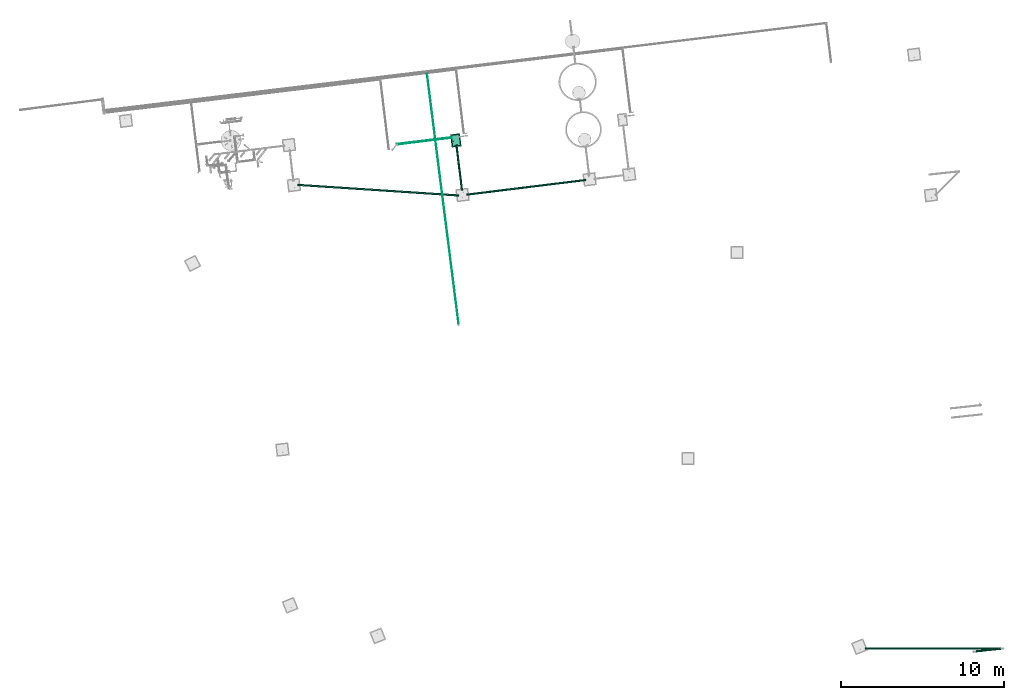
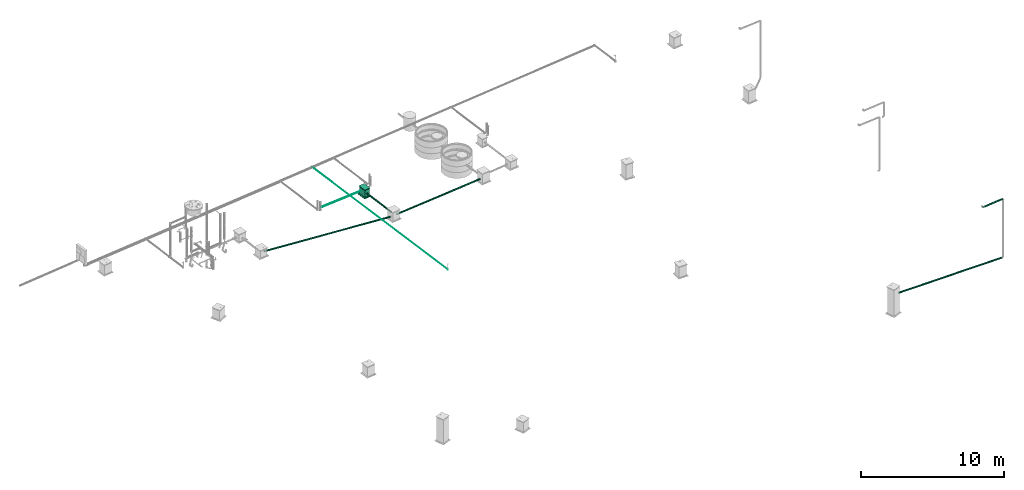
# One storey, part 4 of 97: 7 flow segments, 1 flow terminal.
"""IFC2X3 building model written with IfcOpenShell, lengths in centimetres."""

from ifc_helpers import new_model, entity, si_unit, converted_unit, derived_unit, direction, frame, frame_2d, origin, origin_2d_with_axis, place, context, subcontext, project, spatial, circle, extrude, faceted_brep, source, transform, mapped, material, material_list, type_object, type_shapes, element, save


model = new_model("IFC2X3")

# Units and contexts
model_context = context("Model", 3, precision=0.001, world=origin(), true_north=direction((6.12303176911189e-17, 1.0)))
body_context = subcontext(model_context, "Body", "Model", "MODEL_VIEW")
ifc_project = project(units=[si_unit("LENGTHUNIT", "METRE", prefix="CENTI"), si_unit("AREAUNIT", "SQUARE_METRE"), si_unit("VOLUMEUNIT", "CUBIC_METRE"), converted_unit("PLANEANGLEUNIT", "DEGREE", entity("IfcRatioMeasure", 0.0174532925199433), si_unit("PLANEANGLEUNIT", "RADIAN"), dimensions=[0, 0, 0, 0, 0, 0, 0]), si_unit("MASSUNIT", "GRAM", prefix="KILO"), derived_unit("MASSDENSITYUNIT", [(si_unit("MASSUNIT", "GRAM", prefix="KILO"), 1), (si_unit("LENGTHUNIT", "METRE"), -3)]), derived_unit("MOMENTOFINERTIAUNIT", [(si_unit("LENGTHUNIT", "METRE"), 4)]), si_unit("TIMEUNIT", "SECOND"), si_unit("FREQUENCYUNIT", "HERTZ"), si_unit("THERMODYNAMICTEMPERATUREUNIT", "DEGREE_CELSIUS"), derived_unit("THERMALTRANSMITTANCEUNIT", [(si_unit("MASSUNIT", "GRAM", prefix="KILO"), 1), (si_unit("THERMODYNAMICTEMPERATUREUNIT", "KELVIN"), -1), (si_unit("TIMEUNIT", "SECOND"), -3)]), derived_unit("VOLUMETRICFLOWRATEUNIT", [(si_unit("LENGTHUNIT", "METRE"), 3), (si_unit("TIMEUNIT", "SECOND"), -1)]), si_unit("ELECTRICCURRENTUNIT", "AMPERE"), si_unit("ELECTRICVOLTAGEUNIT", "VOLT"), si_unit("POWERUNIT", "WATT"), si_unit("FORCEUNIT", "NEWTON", prefix="KILO"), si_unit("ILLUMINANCEUNIT", "LUX"), si_unit("LUMINOUSFLUXUNIT", "LUMEN"), si_unit("LUMINOUSINTENSITYUNIT", "CANDELA"), derived_unit("USERDEFINED", [(si_unit("MASSUNIT", "GRAM", prefix="KILO"), -1), (si_unit("LENGTHUNIT", "METRE"), -2), (si_unit("TIMEUNIT", "SECOND"), 3), (si_unit("LUMINOUSFLUXUNIT", "LUMEN"), 1)]), derived_unit("LINEARVELOCITYUNIT", [(si_unit("LENGTHUNIT", "METRE"), 1), (si_unit("TIMEUNIT", "SECOND"), -1)]), si_unit("PRESSUREUNIT", "PASCAL"), derived_unit("USERDEFINED", [(si_unit("LENGTHUNIT", "METRE"), -2), (si_unit("MASSUNIT", "GRAM", prefix="KILO"), 1), (si_unit("TIMEUNIT", "SECOND"), -2)]), derived_unit("LINEARFORCEUNIT", [(si_unit("MASSUNIT", "GRAM", prefix="KILO"), 1), (si_unit("LENGTHUNIT", "METRE"), 1), (si_unit("TIMEUNIT", "SECOND"), -2), (si_unit("LENGTHUNIT", "METRE"), -1)]), derived_unit("PLANARFORCEUNIT", [(si_unit("MASSUNIT", "GRAM", prefix="KILO"), 1), (si_unit("LENGTHUNIT", "METRE"), 1), (si_unit("TIMEUNIT", "SECOND"), -2), (si_unit("LENGTHUNIT", "METRE"), -2)])], contexts=[model_context])

# Site, building, storey
site_placement = place(None, origin())
site = spatial("IfcSite", under=ifc_project, at=site_placement, Name="Default", CompositionType="ELEMENT")
building_placement = place(site_placement, origin())
building = spatial("IfcBuilding", under=site, at=building_placement, Name="HIDROSSANITÁRIO", CompositionType="ELEMENT")
storey_placement = place(building_placement, frame((0.0, 0.0, -260.0)))
storey = spatial("IfcBuildingStorey", under=building, at=storey_placement, Name="TÉRREO-HID", CompositionType="ELEMENT", Elevation=-260.0)

# Flow segments
pipe_segment_type_1 = type_object("IfcPipeSegmentType", Name="Tipos de tubos:Tubo Marrom - Água Fria - Soldável", PredefinedType="NOTDEFINED")
flow_segment_1_placement = place(storey_placement, origin())
element("IfcFlowSegment", 1, at=flow_segment_1_placement, inside=storey, type_object=pipe_segment_type_1, Name="Tipos de tubos:Tubo Marrom - Água Fria - Soldável", ObjectType="Tipos de tubos:Tubo Marrom - Água Fria - Soldável", context=body_context, shape_type="SweptSolid", body=[
    extrude(circle(Radius=1.25, at=origin_2d_with_axis()), frame((-453.020344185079, 3461.64159963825, -20.0), z_axis=(0.125267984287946, -0.992122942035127, 0.0), x_axis=(-0.992122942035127, -0.125267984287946, 0.0)), (0.0, 0.0, 1.0), 1566.73698252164),
])
pipe_segment_type_2 = type_object("IfcPipeSegmentType", Name="Tipos de tubos:Tubo - Esgoto - Série Normal", PredefinedType="NOTDEFINED")
flow_segment_2_placement = place(storey_placement, origin())
element("IfcFlowSegment", 2, at=flow_segment_2_placement, inside=storey, type_object=pipe_segment_type_2, Name="Tipos de tubos:Tubo - Esgoto - Série Normal", ObjectType="Tipos de tubos:Tubo - Esgoto - Série Normal", context=body_context, shape_type="SweptSolid", body=[
    extrude(circle(Radius=5.0, at=origin_2d_with_axis()), frame((-237.169716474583, 2733.44797157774, -35.8), z_axis=(-0.122146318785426, 0.992461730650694, 0.00999950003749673), x_axis=(-0.992511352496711, -0.12215242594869, 0.0)), (0.0, 0.0, 1.0), 280.013999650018),
])
flow_segment_3_placement = place(storey_placement, origin())
element("IfcFlowSegment", 3, at=flow_segment_3_placement, inside=storey, type_object=pipe_segment_type_2, Name="Tipos de tubos:Tubo - Esgoto - Série Normal", ObjectType="Tipos de tubos:Tubo - Esgoto - Série Normal", context=body_context, shape_type="SweptSolid", body=[
    extrude(circle(Radius=2.5, at=origin_2d_with_axis()), frame((-299.779867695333, 3057.04058624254, -32.7018767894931), z_axis=(-0.992312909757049, -0.122128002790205, 0.0199960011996), x_axis=(-0.122152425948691, 0.992511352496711, 0.0)), (0.0, 0.0, 1.0), 339.303052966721),
])
flow_segment_4_placement = place(storey_placement, origin())
element("IfcFlowSegment", 4, at=flow_segment_4_placement, inside=storey, type_object=pipe_segment_type_2, Name="Tipos de tubos:Tubo - Esgoto - Série Normal", ObjectType="Tipos de tubos:Tubo - Esgoto - Série Normal", context=body_context, shape_type="SweptSolid", body=[
    extrude(circle(Radius=5.0, at=origin_2d_with_axis()), frame((-256.018851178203, 2701.47412611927, -49.9209992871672), z_axis=(-0.99779128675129, 0.0656700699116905, 0.00999950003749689), x_axis=(-0.0656733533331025, -0.99784117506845, 0.0)), (0.0, 0.0, 1.0), 992.149532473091),
])
flow_segment_5_placement = place(storey_placement, origin())
element("IfcFlowSegment", 5, at=flow_segment_5_placement, inside=storey, type_object=pipe_segment_type_2, Name="Tipos de tubos:Tubo - Esgoto - Série Normal", ObjectType="Tipos de tubos:Tubo - Esgoto - Série Normal", context=body_context, shape_type="SweptSolid", body=[
    extrude(circle(Radius=5.0, at=frame_2d((3.30687117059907e-15, -2.68676046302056e-16), x_axis=(1.0, 0.0))), frame((-208.079816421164, 2706.70212358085, -50.0), z_axis=(0.992461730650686, 0.122146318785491, -0.00999950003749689), x_axis=(0.122152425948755, -0.992511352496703, 0.0)), (0.0, 0.0, 1.0), 736.036799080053),
])
flow_segment_6_placement = place(storey_placement, origin())
element("IfcFlowSegment", 6, at=flow_segment_6_placement, inside=storey, type_object=pipe_segment_type_2, Name="Tipos de tubos:Tubo - Esgoto - Série Normal", ObjectType="Tipos de tubos:Tubo - Esgoto - Série Normal", context=body_context, shape_type="SweptSolid", body=[
    extrude(circle(Radius=5.0, at=origin_2d_with_axis()), frame((2240.89857686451, -81.3299260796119, 111.538306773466), z_axis=(0.999950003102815, 3.59677573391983e-05, 0.00999950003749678), x_axis=(-3.59695556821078e-05, 1.0, 0.0)), (0.0, 0.0, 1.0), 840.363370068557),
])
flow_segment_7_placement = place(storey_placement, origin())
element("IfcFlowSegment", 7, at=flow_segment_7_placement, inside=storey, type_object=pipe_segment_type_2, Name="Tipos de tubos:Tubo - Esgoto - Série Normal", ObjectType="Tipos de tubos:Tubo - Esgoto - Série Normal", context=body_context, shape_type="SweptSolid", body=[
    extrude(circle(Radius=5.0, at=frame_2d((1.34587581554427e-14, 0.0), x_axis=(1.0, 0.0))), frame((2911.96906233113, -100.051120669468, 620.0), z_axis=(0.994305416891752, 0.106567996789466, 0.0), x_axis=(-0.106567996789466, 0.994305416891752, 0.0)), (0.0, 0.0, 1.0), 170.200045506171),
])

# Flow terminal
ifc_material_1 = material(Name="<Unnamed>")
ifc_material_2 = material(Name="Concrete, Sand/Cement Screed")
ifc_material_3 = material(Name="Brick, Common, Grey")
ifc_material_list_1 = material_list([ifc_material_1, ifc_material_2, ifc_material_3])
ifc_material_list_2 = material_list([ifc_material_1, ifc_material_2, ifc_material_3])
distribution_element_type = type_object("IfcDistributionElementType", Name="Caixa de Inspeção/Gordura:Alvenaria", material=ifc_material_list_2)
shared_shape = source(origin(), body_context, "Body", "Brep", [
    faceted_brep([(-5.60146522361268, 16.5924553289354, 3.71042168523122), (-5.40613785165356, 16.3971279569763, 3.71042168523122), (-5.60146522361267, 16.2018005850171, 3.71042168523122), (-5.79679259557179, 16.3971279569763, 3.71042168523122), (6.39853477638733, 16.2018005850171, 3.71042168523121), (6.20320740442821, 16.3971279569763, 3.71042168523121), (6.39853477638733, 16.5924553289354, 3.71042168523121), (6.59386214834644, 16.3971279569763, 3.71042168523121), (-5.40613785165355, 16.3971279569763, 5.27042602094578), (-5.57070403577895, 16.2042380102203, 5.71042174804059), (-5.79679259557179, 16.3971279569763, 5.27042593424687), (-5.40613785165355, 16.3971279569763, 7.71042168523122), (-5.60146522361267, 16.2018005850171, 7.71042168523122), (-5.40613785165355, 16.3971279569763, 6.1504173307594), (-5.79679259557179, 16.3971279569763, 7.71042168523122), (-5.60146522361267, 16.5924553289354, 7.71042168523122), (-5.63222641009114, 16.5900179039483, 5.71042169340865), (-5.68947233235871, 16.5044482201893, 7.71042168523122), (-5.25102598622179, 16.2195619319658, 8.35998244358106), (-5.37993713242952, 16.2298951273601, 8.48889359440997), (-4.60146522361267, 16.3971279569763, 8.90574905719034), (-4.60146522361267, 16.2018005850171, 8.71042168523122), (-5.17045469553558, 16.3971279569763, 8.27941115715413), (-4.60146522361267, 16.3971279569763, 8.5150943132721), (-5.44668931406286, 16.3971279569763, 8.55564577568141), (-5.36898819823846, 16.5727768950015, 8.47794465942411), (-5.21737432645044, 16.5627205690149, 8.36172681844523), (-4.60146522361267, 16.5924553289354, 8.71042168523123), (0.518543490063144, 16.3971279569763, 8.90574905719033), (1.73854147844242, 16.2018005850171, 8.71042168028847), (2.95853913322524, 16.3971279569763, 8.90574905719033), (-0.76461087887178, 16.2018577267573, 8.71514602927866), (-2.16146960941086, 16.3971279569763, 8.5150943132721), (0.278526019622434, 16.3971279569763, 8.5150943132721), (0.398534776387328, 16.3971279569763, 8.5150943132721), (-2.16146958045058, 16.3971279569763, 8.90574905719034), (5.39853477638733, 16.2018005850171, 8.71042168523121), (5.39853477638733, 16.3971279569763, 8.90574905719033), (2.95853916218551, 16.3971279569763, 8.5150943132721), (5.39853477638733, 16.3971279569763, 8.51509431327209), (0.398534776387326, 16.3971279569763, 8.90574905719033), (1.56168082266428, 16.5923981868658, 8.70569732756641), (-0.941471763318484, 16.5924553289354, 8.71042168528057), (5.39853477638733, 16.5924553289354, 8.71042168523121), (5.39853477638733, 16.5044482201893, 8.79842879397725), (6.04809553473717, 16.2195619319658, 8.35998244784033), (6.17700668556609, 16.2298951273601, 8.48889359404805), (6.59386214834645, 16.3971279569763, 7.71042168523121), (6.39853477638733, 16.2018005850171, 7.71042168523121), (5.96752424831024, 16.3971279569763, 8.27941115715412), (6.20320740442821, 16.3971279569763, 7.71042168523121), (6.24375886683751, 16.3971279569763, 8.5556457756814), (6.16605775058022, 16.5727768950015, 8.477944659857), (6.04983990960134, 16.5627205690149, 8.32633078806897), (6.39853477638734, 16.5924553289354, 7.71042168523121), (6.20320740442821, 16.3971279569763, 6.15041734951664), (6.36777358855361, 16.2042380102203, 5.71042162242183), (6.59386214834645, 16.3971279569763, 6.15041743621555), (6.20320740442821, 16.3971279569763, 5.27042603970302), (6.4292959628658, 16.5900179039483, 5.71042167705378)], [[[0, 1, 2, 3]], [[4, 5, 6, 7]], [[8, 9, 2]], [[2, 10, 3]], [[10, 2, 9]], [[11, 12, 9]], [[8, 2, 1]], [[9, 8, 13, 11]], [[9, 12, 14]], [[14, 10, 9]], [[13, 15, 11]], [[0, 10, 16]], [[14, 16, 10]], [[10, 0, 3]], [[16, 13, 8, 1]], [[13, 16, 15]], [[1, 0, 16]], [[16, 14, 17, 15]], [[12, 18, 19]], [[20, 19, 21]], [[14, 12, 19]], [[11, 22, 18]], [[23, 21, 18]], [[14, 19, 24]], [[24, 19, 20]], [[23, 18, 22]], [[19, 18, 21]], [[11, 18, 12]], [[17, 14, 24]], [[25, 26, 15]], [[25, 15, 17]], [[11, 15, 26]], [[25, 27, 26]], [[20, 25, 24]], [[20, 27, 25]], [[26, 22, 11]], [[22, 26, 23]], [[17, 24, 25]], [[23, 26, 27]], [[28, 29, 30]], [[31, 32, 33, 34]], [[35, 20, 21]], [[36, 37, 30]], [[29, 28, 31]], [[38, 39, 36]], [[21, 23, 32]], [[34, 29, 31]], [[32, 31, 21]], [[30, 29, 36]], [[34, 38, 29]], [[36, 29, 38]], [[31, 28, 40, 35]], [[31, 35, 21]], [[40, 41, 42]], [[43, 39, 38]], [[27, 42, 33, 32, 23]], [[27, 20, 35, 40, 42]], [[30, 37, 44, 43]], [[38, 41, 43]], [[30, 43, 41]], [[42, 41, 33]], [[41, 40, 28, 30]], [[41, 38, 34, 33]], [[36, 45, 46]], [[47, 46, 48]], [[37, 36, 46]], [[39, 49, 45]], [[50, 48, 45]], [[37, 46, 51]], [[51, 46, 47]], [[50, 45, 49]], [[46, 45, 48]], [[39, 45, 36]], [[44, 37, 51]], [[52, 53, 43]], [[52, 43, 44]], [[39, 43, 53]], [[52, 54, 53]], [[47, 52, 51]], [[47, 54, 52]], [[53, 49, 39]], [[49, 53, 50]], [[44, 51, 52]], [[50, 53, 54]], [[55, 56, 48]], [[48, 57, 47]], [[57, 48, 56]], [[5, 4, 56]], [[55, 48, 50]], [[56, 55, 58, 5]], [[56, 4, 7]], [[7, 57, 56]], [[58, 6, 5]], [[54, 57, 59]], [[7, 59, 57]], [[57, 54, 47]], [[59, 58, 55, 50]], [[58, 59, 6]], [[50, 54, 59]], [[7, 6, 59]]]),
    faceted_brep([(-5.60146522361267, -16.5924553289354, 3.71042168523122), (-5.79679259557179, -16.3971279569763, 3.71042168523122), (-5.60146522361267, -16.2018005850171, 3.71042168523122), (-5.40613785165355, -16.3971279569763, 3.71042168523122), (6.39853477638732, -16.2018005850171, 3.71042168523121), (6.59386214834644, -16.3971279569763, 3.71042168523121), (6.39853477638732, -16.5924553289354, 3.71042168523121), (6.20320740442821, -16.3971279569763, 3.71042168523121), (-5.79679259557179, -16.3971279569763, 6.15041737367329), (-5.60146522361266, -16.5924553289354, 7.71042168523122), (-5.68947233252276, -16.5044482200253, 7.71042168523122), (-5.79679259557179, -16.3971279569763, 7.71042168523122), (-5.40613785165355, -16.3971279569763, 5.27042602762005), (-5.5707040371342, -16.5900179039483, 5.71042169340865), (-5.40613785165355, -16.3971279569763, 7.71042168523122), (-5.79679259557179, -16.3971279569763, 5.27042602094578), (-5.51345811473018, -16.5044482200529, 7.71042168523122), (-5.63222641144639, -16.2042380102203, 5.71042174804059), (-5.60146522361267, -16.2018005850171, 7.71042168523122), (-5.37028554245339, -16.5521831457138, 8.52319636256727), (-5.44668931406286, -16.3971279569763, 8.55564577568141), (-5.17045469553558, -16.3971279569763, 8.27941115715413), (-4.60146522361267, -16.3971279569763, 8.5150943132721), (-4.60146522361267, -16.5044482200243, 8.62241457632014), (-4.60146522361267, -16.5924553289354, 8.71042168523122), (-4.60146522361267, -16.5044482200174, 8.79842879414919), (-5.27261908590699, -16.5857215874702, 8.3815755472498), (-4.60146522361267, -16.3971279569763, 8.90574905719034), (-5.23720687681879, -16.2298951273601, 8.34616333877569), (-4.60146522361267, -16.2018005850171, 8.71042168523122), (-5.36611802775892, -16.2195619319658, 8.4750744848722), (0.398534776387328, -16.3971279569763, 8.5150943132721), (1.56168082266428, -16.5923981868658, 8.71514604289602), (-0.941471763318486, -16.5924553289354, 8.71042168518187), (2.95853912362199, -16.3971279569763, 8.90574905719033), (5.39853477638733, -16.5924553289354, 8.71042168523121), (5.39853477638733, -16.5044482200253, 8.7984287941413), (5.39853477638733, -16.3971279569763, 8.90574905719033), (0.278526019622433, -16.3971279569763, 8.90574905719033), (-2.16146957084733, -16.3971279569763, 8.90574905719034), (-2.16146960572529, -16.3971279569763, 8.5150943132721), (2.95853915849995, -16.3971279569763, 8.51509431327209), (5.39853477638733, -16.3971279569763, 8.51509431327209), (5.39853477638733, -16.5044482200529, 8.62241457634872), (0.518543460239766, -16.3971279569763, 8.5150943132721), (0.398534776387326, -16.3971279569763, 8.90574905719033), (1.73854147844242, -16.2018005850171, 8.71042169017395), (-0.76461087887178, -16.2018577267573, 8.70569734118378), (5.39853477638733, -16.2018005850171, 8.71042168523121), (6.21130945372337, -16.5521831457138, 8.47924200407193), (6.24375886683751, -16.3971279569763, 8.5556457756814), (5.96752424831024, -16.3971279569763, 8.27941115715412), (6.20320740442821, -16.3971279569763, 7.71042168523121), (6.31052766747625, -16.5044482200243, 7.71042168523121), (6.39853477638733, -16.5924553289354, 7.71042168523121), (6.4865418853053, -16.5044482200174, 7.71042168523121), (6.06968863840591, -16.5857215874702, 8.38157554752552), (6.59386214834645, -16.3971279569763, 7.71042168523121), (6.03427642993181, -16.2298951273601, 8.34616333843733), (6.39853477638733, -16.2018005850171, 7.71042168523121), (6.16318757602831, -16.2195619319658, 8.47507448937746), (6.59386214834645, -16.3971279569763, 5.27042599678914), (6.20320740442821, -16.3971279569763, 6.15041726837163), (6.36777358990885, -16.5900179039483, 5.71042167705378), (6.59386214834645, -16.3971279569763, 6.15041734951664), (6.42929596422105, -16.2042380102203, 5.71042162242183)], [[[0, 1, 2, 3]], [[4, 5, 6, 7]], [[8, 9, 10, 11]], [[0, 12, 13]], [[14, 13, 12]], [[12, 0, 3]], [[13, 8, 15, 1]], [[8, 13, 9]], [[1, 0, 13]], [[13, 14, 16, 9]], [[15, 17, 2]], [[2, 12, 3]], [[12, 2, 17]], [[11, 18, 17]], [[15, 2, 1]], [[17, 15, 8, 11]], [[17, 18, 14]], [[14, 12, 17]], [[19, 10, 9]], [[10, 19, 20]], [[21, 22, 23]], [[24, 25, 19]], [[24, 26, 23]], [[24, 19, 26]], [[16, 26, 9]], [[20, 25, 27]], [[20, 11, 10]], [[23, 26, 21]], [[19, 25, 20]], [[14, 21, 16]], [[26, 19, 9]], [[26, 16, 21]], [[22, 28, 29]], [[18, 30, 28]], [[14, 28, 21]], [[14, 18, 28]], [[11, 20, 30]], [[27, 30, 20]], [[27, 29, 30]], [[11, 30, 18]], [[21, 28, 22]], [[28, 30, 29]], [[31, 32, 33]], [[34, 35, 36, 37]], [[24, 33, 38, 39, 27, 25]], [[40, 31, 33, 24, 23, 22]], [[41, 42, 43, 35]], [[34, 32, 35]], [[41, 35, 32]], [[33, 32, 38]], [[32, 31, 44, 41]], [[32, 34, 45, 38]], [[44, 46, 41]], [[47, 39, 38, 45]], [[40, 22, 29]], [[48, 42, 41]], [[46, 44, 47]], [[34, 37, 48]], [[29, 27, 39]], [[45, 46, 47]], [[39, 47, 29]], [[41, 46, 48]], [[45, 34, 46]], [[48, 46, 34]], [[47, 44, 31, 40]], [[47, 40, 29]], [[49, 36, 35]], [[36, 49, 50]], [[51, 52, 53]], [[54, 55, 49]], [[54, 56, 53]], [[54, 49, 56]], [[43, 56, 35]], [[50, 55, 57]], [[50, 37, 36]], [[53, 56, 51]], [[49, 55, 50]], [[42, 51, 43]], [[56, 49, 35]], [[56, 43, 51]], [[52, 58, 59]], [[48, 60, 58]], [[42, 58, 51]], [[42, 48, 58]], [[37, 50, 60]], [[57, 60, 50]], [[57, 59, 60]], [[37, 60, 48]], [[51, 58, 52]], [[58, 60, 59]], [[61, 6, 5]], [[54, 62, 63]], [[7, 63, 62]], [[62, 54, 53, 52]], [[63, 61, 64, 57]], [[61, 63, 6]], [[63, 57, 55, 54]], [[7, 6, 63]], [[64, 65, 59]], [[59, 62, 52]], [[62, 59, 65]], [[5, 4, 65]], [[64, 59, 57]], [[65, 64, 61, 5]], [[65, 4, 7]], [[7, 62, 65]]]),
    faceted_brep([(34.0, 24.0, 6.0), (-34.0, 24.0, 6.0), (-34.0, -24.0, 6.0), (34.0, -24.0, 6.0), (34.0, 24.0, 1.0), (34.0, -24.0, 1.0), (-34.0, -24.0, 1.0), (-34.0, 24.0, 1.0)], [[[0, 1, 2, 3]], [[4, 5, 6, 7]], [[1, 0, 4, 7]], [[2, 1, 7, 6]], [[3, 2, 6, 5]], [[0, 3, 5, 4]]]),
    faceted_brep([(40.0, 30.0, -60.0), (-40.0, 30.0, -60.0), (-40.0, -30.0, -60.0), (40.0, -30.0, -60.0), (40.0, 30.0, -65.0), (40.0, -30.0, -65.0), (-40.0, -30.0, -65.0), (-40.0, 30.0, -65.0)], [[[0, 1, 2, 3]], [[4, 5, 6, 7]], [[1, 0, 4, 7]], [[2, 1, 7, 6]], [[3, 2, 6, 5]], [[0, 3, 5, 4]]]),
    faceted_brep([(25.0, 15.0, 1.0), (25.0, -15.0, 1.0), (-25.0, -15.0, 1.0), (-25.0, 15.0, 1.0), (30.0, 20.0, 1.0), (-30.0, 20.0, 1.0), (-30.0, -20.0, 1.0), (30.0, -20.0, 1.0), (25.0, 15.0, -60.0), (-25.0, 15.0, -60.0), (-25.0, -15.0, -60.0), (25.0, -15.0, -60.0), (30.0, 20.0, -60.0), (30.0, -20.0, -60.0), (-30.0, -20.0, -60.0), (-30.0, 20.0, -60.0)], [[[0, 1, 2, 3], [4, 5, 6, 7]], [[8, 9, 10, 11], [12, 13, 14, 15]], [[1, 0, 8, 11]], [[2, 1, 11, 10]], [[3, 2, 10, 9]], [[0, 3, 9, 8]], [[5, 4, 12, 15]], [[6, 5, 15, 14]], [[7, 6, 14, 13]], [[4, 7, 13, 12]]], outer=[[False, True], [False, True], [True], [True], [True], [True], [True], [True], [True], [True]]),
])
type_shapes(distribution_element_type, [shared_shape])
flow_terminal_placement = place(storey_placement, frame((-274.895236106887, 3039.97488844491, 0.0), z_axis=(0.0, 0.0, 1.0), x_axis=(-0.122152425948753, 0.992511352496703, 0.0)))
element("IfcFlowTerminal", 8, at=flow_terminal_placement, inside=storey, type_object=distribution_element_type, material=ifc_material_list_1, Name="Caixa de Inspeção/Gordura:Alvenaria", ObjectType="Caixa de Inspeção/Gordura:Alvenaria", context=body_context, shape_type="MappedRepresentation", body=[
    mapped(shared_shape, transform((0.0, 0.0, 0.0), scale=1.0)),
])

save(model, "model.ifc")
